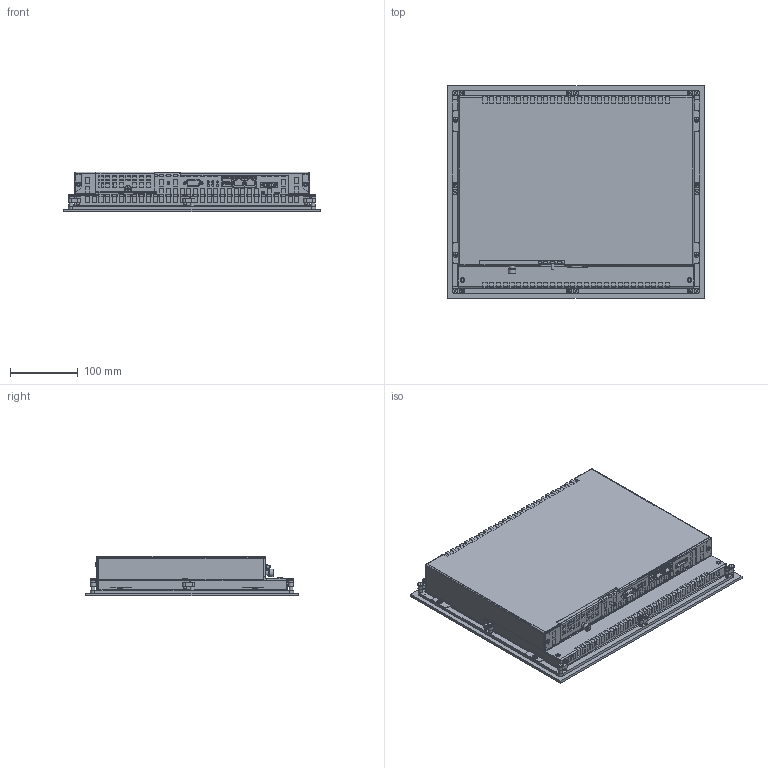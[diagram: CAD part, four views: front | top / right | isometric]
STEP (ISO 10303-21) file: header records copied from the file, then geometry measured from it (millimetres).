
FILE_DESCRIPTION((''),'2;1');
FILE_NAME('X:\0-inventor\0-3d-Teile\PC-Compo\solids\CP66xx\CP6602-0000+0001.stp','2010-06-17T10:10:41',('christianKreuzer'),(''),'Autodesk Inventor 2011','Autodesk Inventor 2011','');
FILE_SCHEMA(('AUTOMOTIVE_DESIGN { 1 0 10303 214 1 1 1 1 }'));
Length unit declared in the file: millimetre
Products named in the file (1): CP6602-0001-Step-Vorlage
Bounding box: 380 x 315 x 59 mm (x, y, z)
Volume: 5189487.4 mm3; surface area: 623954.2 mm2
Topology: 1 solids, 68 shells, 3068 faces, 8373 edges, 5444 vertices
Faces by surface type: plane 2248, cylinder 607, cone 138, torus 57, bspline 12, sphere 6
Full cylindrical faces by diameter (mm): 1.567 x2, 2.459 x2, 2.729 x2, 3 x17, 3.141 x8, 3.2 x14, 3.242 x12, 3.3 x8, 3.621 x4, 4 x29, 4.22 x1, 4.25 x15, 4.5 x20, 5.5 x8, 5.56 x1, 5.6 x2, 6.5 x11, 7 x8, 7.5 x1, 8.5 x8, 10.8 x1
Entity records: 98069 total; most frequent: CARTESIAN_POINT 18108, ORIENTED_EDGE 16014, DIRECTION 15379, EDGE_CURVE 8007, VECTOR 6199, LINE 6199, VERTEX_POINT 5343, AXIS2_PLACEMENT_3D 4590
